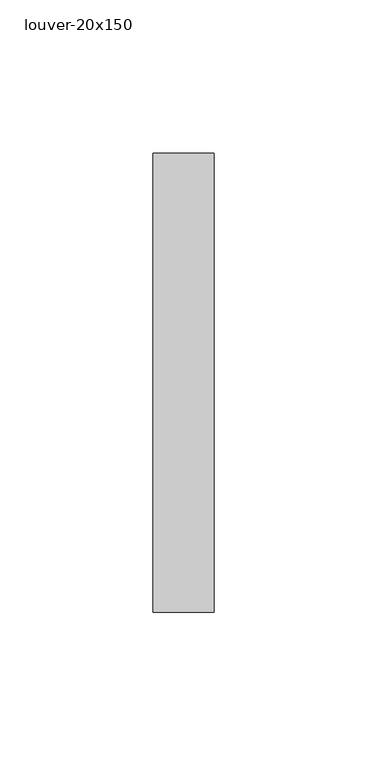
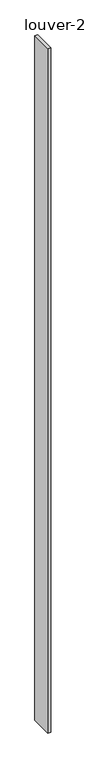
"""IFC4 building model written with IfcOpenShell, lengths in millimetres: member geometry, 長方形マリオン : louver-20x150."""

from ifc_helpers import new_model, si_unit, frame, origin, place, context, project, spatial, polyline, outline, extrude, source, transform, mapped, element, save


def louver_20x150_cb5f7806(model_context):
    return source(origin(), model_context, "Body", "SweptSolid", [
        extrude(outline(polyline([(10.0, 75.0), (10.0, -75.0), (-10.0, -75.0), (-10.0, 75.0), (10.0, 75.0)])), frame((0.0, 0.0, -4871.75), z_axis=(0.0, 0.0, 1.0), x_axis=(1.0, 0.0, 0.0)), (0.0, 0.0, 1.0), 4871.75),
    ])


if __name__ == "__main__":
    model = new_model("IFC4")
    model_context = context("Model", 3, world=origin())
    ifc_project = project(units=[si_unit("LENGTHUNIT", "METRE", prefix="MILLI")], contexts=[model_context])
    site = spatial("IfcSite", under=ifc_project)
    building = spatial("IfcBuilding", under=site)
    placement = place(None, origin())
    louver_20x150_shape = louver_20x150_cb5f7806(model_context)
    element("IfcMember", 1, ObjectType="長方形マリオン : louver-20x150", at=placement, inside=building, context=model_context, shape_type="MappedRepresentation", body=[
        mapped(louver_20x150_shape, transform((0.0, 0.0, 0.0), x_axis=(1.0, 0.0, 0.0), y_axis=(0.0, 1.0, 0.0), z_axis=(0.0, 0.0, 1.0))),
    ])
    save(model, "model.ifc")
